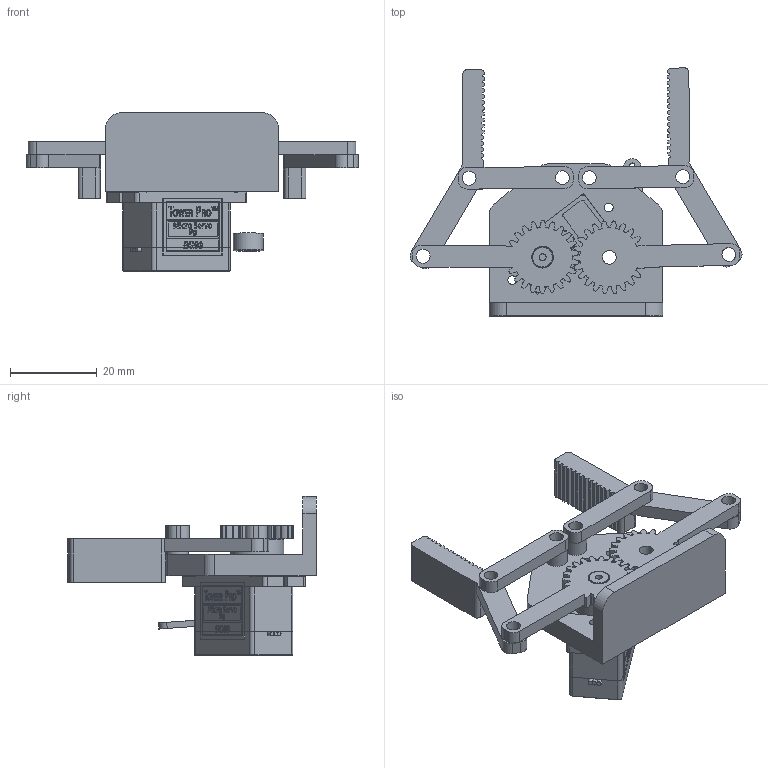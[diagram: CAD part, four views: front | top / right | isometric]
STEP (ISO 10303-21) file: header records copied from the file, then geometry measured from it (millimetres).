
FILE_DESCRIPTION(/* description */ (''),/* implementation_level */ '2;1');
FILE_NAME(/* name */ 'Claw_v19.tmp.step',/* time_stamp */ '2026-11-01T13:09:24+02:00',/* author */ (''),/* organization */ (''),/* preprocessor_version */ 'ST-DEVELOPER v20.2',/* originating_system */ 'Autodesk Translation Framework v15.15.0.0',/* authorisation */ '');
FILE_SCHEMA (('AUTOMOTIVE_DESIGN { 1 0 10303 214 3 1 1 }'));
Products named in the file (11): Claw; Servo Claw Gear; Spur Gear (22 teeth); Claw Other Gear; Spur Gear (22 teeth) (1); Right Claw; SG90 - Micro Servo 9g - Tower Pro.1; SG90 - Micro Servo 9g - Tower Pro.2; Claw Base V2; Claw Arm; Left Claw
Assembly tree (11 placements, depth 3):
  Claw
    Servo Claw Gear
      Spur Gear (22 teeth)
    Claw Other Gear
      Spur Gear (22 teeth) (1)
    Right Claw
    Claw Arm  x2
    SG90 - Micro Servo 9g - Tower Pro.1
      SG90 - Micro Servo 9g - Tower Pro.2
    Claw Base V2
    Left Claw
Bounding box: 76.39 x 57.07 x 36.6 mm (x, y, z)
Volume: 18972.8 mm3; surface area: 15503.9 mm2
Topology: 21 solids, 21 shells, 1354 faces, 4323 edges, 3126 vertices
Faces by surface type: plane 815, cylinder 408, bspline 103, torus 25, sphere 2, cone 1
Full cylindrical faces by diameter (mm): 0.2 x1, 0.5 x1, 1 x3, 1.2 x6, 1.6 x2, 1.8 x4, 2 x6, 2.1 x1, 3.2 x14, 4.6 x1, 5 x5, 6.9 x1
Entity records: 86437 total; most frequent: CARTESIAN_POINT 48506, ORIENTED_EDGE 8582, DIRECTION 6934, EDGE_CURVE 4291, VERTEX_POINT 3106, LINE 2666, VECTOR 2666, AXIS2_PLACEMENT_3D 2134
